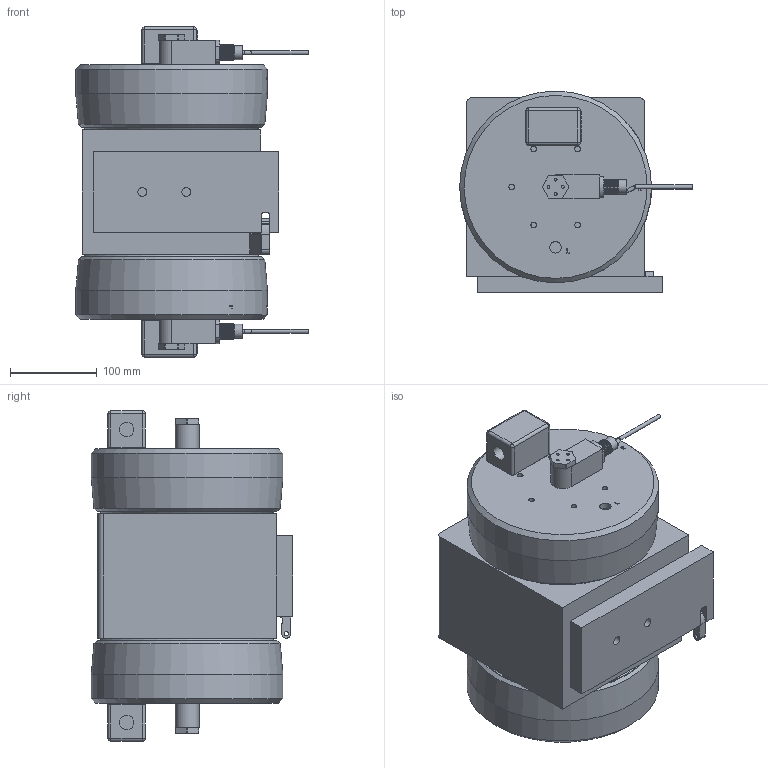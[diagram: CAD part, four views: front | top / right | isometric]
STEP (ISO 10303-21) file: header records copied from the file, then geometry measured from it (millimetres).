
FILE_DESCRIPTION (( 'STEP AP214' ), '1' );
FILE_NAME ('PXA140_solid model.STEP', '2013-07-24T17:11:02', ( '' ), ( '' ), 'SwSTEP 2.0', 'SolidWorks 2012', '' );
FILE_SCHEMA (( 'AUTOMOTIVE_DESIGN' ));
Length unit declared in the file: inch
Products named in the file (1): PXA140_solid model
Bounding box: 268.85 x 233.1 x 381.84 mm (x, y, z)
Volume: 12355542 mm3; surface area: 436478.7 mm2
Topology: 1 solids, 1 shells, 1180 faces, 2909 edges, 1890 vertices
Faces by surface type: plane 822, cylinder 149, bspline 95, cone 94, torus 12, sphere 8
Full cylindrical faces by diameter (mm): 3.175 x8, 3.251 x32, 4.445 x7, 4.902 x1, 6.477 x10, 10.312 x2, 13.183 x2, 16.408 x2, 16.716 x2, 18.25 x2, 22.25 x2, 31.877 x1, 33.401 x1, 35.35 x2, 38.786 x2, 62.332 x1, 199.009 x2, 199.771 x2, 221.717 x2
Entity records: 43019 total; most frequent: CARTESIAN_POINT 11198, ORIENTED_EDGE 5424, DIRECTION 5138, EDGE_CURVE 2712, LINE 2066, VECTOR 2066, VERTEX_POINT 1876, AXIS2_PLACEMENT_3D 1536
